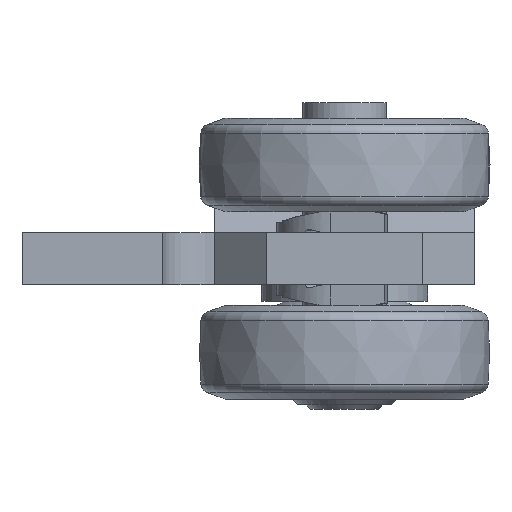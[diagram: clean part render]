
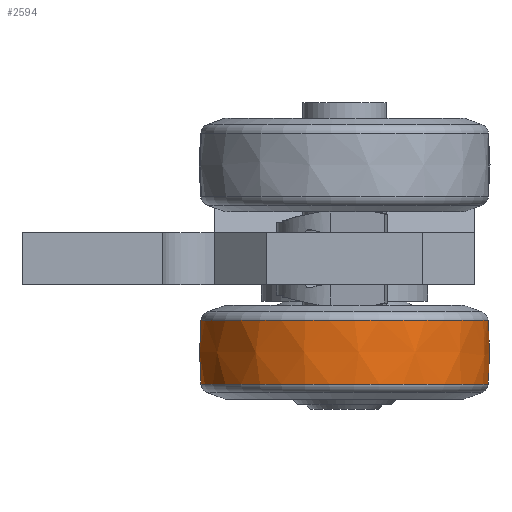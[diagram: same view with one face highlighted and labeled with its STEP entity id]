
A CAD part, left-side view. The second image highlights one B-rep face of the part: STEP entity #2594.
In plain terms, the highlighted free-form (B-spline) face has degree [2, 2] with [3, 9] control points.
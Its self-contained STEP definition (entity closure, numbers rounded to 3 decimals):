
#92=(
BOUNDED_CURVE()
B_SPLINE_CURVE(2,(#5033,#5034,#5035),.UNSPECIFIED.,.F.,.F.)
B_SPLINE_CURVE_WITH_KNOTS((3,3),(-0.109,0.109),
 .UNSPECIFIED.)
CURVE()
GEOMETRIC_REPRESENTATION_ITEM()
RATIONAL_B_SPLINE_CURVE((1.,0.994,1.))
REPRESENTATION_ITEM('')
);
#117=(
BOUNDED_SURFACE()
B_SPLINE_SURFACE(2,2,((#5005,#5006,#5007,#5008,#5009,#5010,#5011,#5012,
#5013),(#5014,#5015,#5016,#5017,#5018,#5019,#5020,#5021,#5022),(#5023,#5024,
#5025,#5026,#5027,#5028,#5029,#5030,#5031)),.UNSPECIFIED.,.F.,.T.,.F.)
B_SPLINE_SURFACE_WITH_KNOTS((3,3),(3,2,2,2,3),(-0.109,0.109),
(-3.142,-1.571,0.,1.571,3.142),
 .UNSPECIFIED.)
GEOMETRIC_REPRESENTATION_ITEM()
RATIONAL_B_SPLINE_SURFACE(((1.,0.707,1.,0.707,1.,
0.707,1.,0.707,1.),(0.994,0.703,
0.994,0.703,0.994,0.703,0.994,
0.703,0.994),(1.,0.707,1.,0.707,
1.,0.707,1.,0.707,1.)))
REPRESENTATION_ITEM('')
SURFACE()
);
#821=FACE_OUTER_BOUND('',#998,.T.);
#998=EDGE_LOOP('',(#2277,#2278,#2279,#2280,#2281,#2282));
#1159=CIRCLE('',#2824,13.833);
#1160=CIRCLE('',#2825,13.833);
#1162=CIRCLE('',#2827,13.833);
#1163=CIRCLE('',#2828,13.833);
#1363=VERTEX_POINT('',#4999);
#1364=VERTEX_POINT('',#5000);
#1366=VERTEX_POINT('',#5032);
#1367=VERTEX_POINT('',#5036);
#1685=EDGE_CURVE('',#1363,#1364,#1159,.T.);
#1686=EDGE_CURVE('',#1364,#1363,#1160,.T.);
#1688=EDGE_CURVE('',#1364,#1366,#92,.T.);
#1689=EDGE_CURVE('',#1367,#1366,#1162,.T.);
#1690=EDGE_CURVE('',#1366,#1367,#1163,.T.);
#2277=ORIENTED_EDGE('',*,*,#1685,.F.);
#2278=ORIENTED_EDGE('',*,*,#1686,.F.);
#2279=ORIENTED_EDGE('',*,*,#1688,.T.);
#2280=ORIENTED_EDGE('',*,*,#1689,.F.);
#2281=ORIENTED_EDGE('',*,*,#1690,.F.);
#2282=ORIENTED_EDGE('',*,*,#1688,.F.);
#2594=ADVANCED_FACE('',(#821),#117,.F.);
#2824=AXIS2_PLACEMENT_3D('',#5001,#3452,#3453);
#2825=AXIS2_PLACEMENT_3D('',#5002,#3454,#3455);
#2827=AXIS2_PLACEMENT_3D('',#5037,#3458,#3459);
#2828=AXIS2_PLACEMENT_3D('',#5038,#3460,#3461);
#3452=DIRECTION('center_axis',(1.,0.,0.));
#3453=DIRECTION('ref_axis',(0.,-1.,0.));
#3454=DIRECTION('center_axis',(1.,0.,0.));
#3455=DIRECTION('ref_axis',(0.,-1.,0.));
#3458=DIRECTION('center_axis',(-1.,0.,0.));
#3459=DIRECTION('ref_axis',(0.,-1.,0.));
#3460=DIRECTION('center_axis',(-1.,0.,0.));
#3461=DIRECTION('ref_axis',(0.,-1.,0.));
#4999=CARTESIAN_POINT('',(3.058,13.833,0.));
#5000=CARTESIAN_POINT('',(3.058,0.,13.833));
#5001=CARTESIAN_POINT('Origin',(3.058,0.,0.));
#5002=CARTESIAN_POINT('Origin',(3.058,0.,0.));
#5005=CARTESIAN_POINT('Ctrl Pts',(-3.058,0.,13.833));
#5006=CARTESIAN_POINT('Ctrl Pts',(-3.058,-13.833,13.833));
#5007=CARTESIAN_POINT('Ctrl Pts',(-3.058,-13.833,0.));
#5008=CARTESIAN_POINT('Ctrl Pts',(-3.058,-13.833,-13.833));
#5009=CARTESIAN_POINT('Ctrl Pts',(-3.058,0.,-13.833));
#5010=CARTESIAN_POINT('Ctrl Pts',(-3.058,13.833,-13.833));
#5011=CARTESIAN_POINT('Ctrl Pts',(-3.058,13.833,0.));
#5012=CARTESIAN_POINT('Ctrl Pts',(-3.058,13.833,13.833));
#5013=CARTESIAN_POINT('Ctrl Pts',(-3.058,0.,13.833));
#5014=CARTESIAN_POINT('Ctrl Pts',(0.,0.,14.168));
#5015=CARTESIAN_POINT('Ctrl Pts',(0.,-14.168,
14.168));
#5016=CARTESIAN_POINT('Ctrl Pts',(0.,-14.168,
0.));
#5017=CARTESIAN_POINT('Ctrl Pts',(0.,-14.168,
-14.168));
#5018=CARTESIAN_POINT('Ctrl Pts',(0.,0.,-14.168));
#5019=CARTESIAN_POINT('Ctrl Pts',(0.,14.168,
-14.168));
#5020=CARTESIAN_POINT('Ctrl Pts',(0.,14.168,
0.));
#5021=CARTESIAN_POINT('Ctrl Pts',(0.,14.168,
14.168));
#5022=CARTESIAN_POINT('Ctrl Pts',(0.,0.,14.168));
#5023=CARTESIAN_POINT('Ctrl Pts',(3.058,0.,13.833));
#5024=CARTESIAN_POINT('Ctrl Pts',(3.058,-13.833,13.833));
#5025=CARTESIAN_POINT('Ctrl Pts',(3.058,-13.833,0.));
#5026=CARTESIAN_POINT('Ctrl Pts',(3.058,-13.833,-13.833));
#5027=CARTESIAN_POINT('Ctrl Pts',(3.058,0.,-13.833));
#5028=CARTESIAN_POINT('Ctrl Pts',(3.058,13.833,-13.833));
#5029=CARTESIAN_POINT('Ctrl Pts',(3.058,13.833,0.));
#5030=CARTESIAN_POINT('Ctrl Pts',(3.058,13.833,13.833));
#5031=CARTESIAN_POINT('Ctrl Pts',(3.058,0.,13.833));
#5032=CARTESIAN_POINT('',(-3.058,0.,13.833));
#5033=CARTESIAN_POINT('Ctrl Pts',(3.058,0.,13.833));
#5034=CARTESIAN_POINT('Ctrl Pts',(0.,0.,14.168));
#5035=CARTESIAN_POINT('Ctrl Pts',(-3.058,0.,13.833));
#5036=CARTESIAN_POINT('',(-3.058,13.833,0.));
#5037=CARTESIAN_POINT('Origin',(-3.058,0.,0.));
#5038=CARTESIAN_POINT('Origin',(-3.058,0.,0.));
